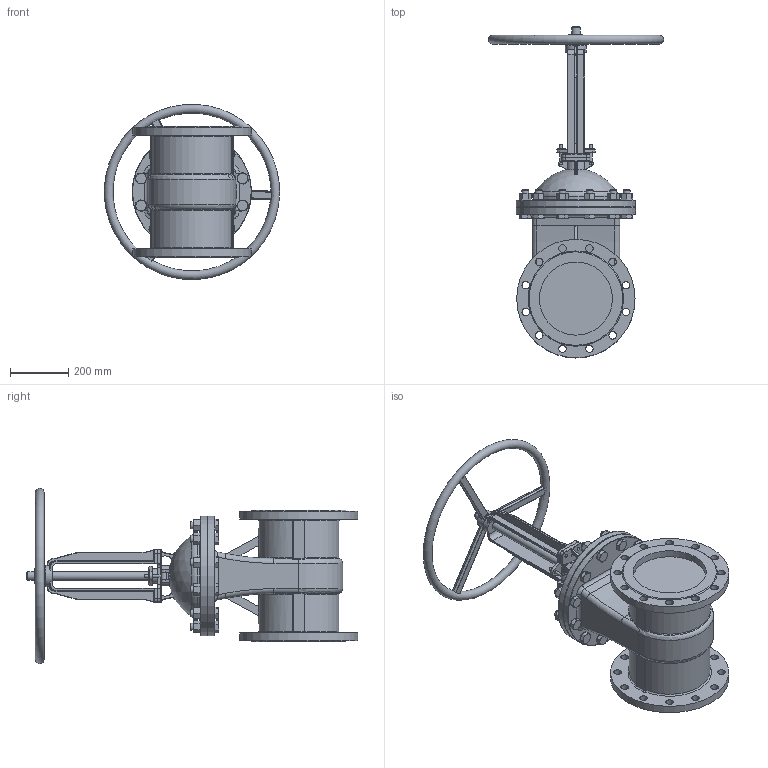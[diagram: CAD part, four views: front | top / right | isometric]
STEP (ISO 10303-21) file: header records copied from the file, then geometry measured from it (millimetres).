
FILE_DESCRIPTION(('STEP AP242'), '1');
FILE_NAME('GVWR2626M-2W-F-S Çàäâèæêà êëèíîâàÿ ñ âûäâèæíûì øòîêîì DN.ru Äó250 Ðó16', '', ('UNSPECIFIED'), ('UNSPECIFIED'), 'C3D Converter', 'C3D Toolkit', '');
FILE_SCHEMA(('AP242_MANAGED_MODEL_BASED_3D_ENGINEERING_MIM_LF { 1 0 10303 442 1 1 4 }'));
Length unit declared in the file: millimetre
Products named in the file (1): GVWR2626M-2W-F-S
Bounding box: 599.18 x 1135.5 x 599.04 mm (x, y, z)
Surface area: 2030970.5 mm2
Topology: 12 solids, 13 shells, 1147 faces, 2776 edges, 1702 vertices
Faces by surface type: plane 478, cylinder 287, cone 189, bspline 102, torus 86, sphere 5
Full cylindrical faces by diameter (mm): 8.4 x4, 9.6 x4, 12 x8, 18 x2, 24 x36, 26 x24, 30 x2, 33.48 x12, 36 x9, 48 x3, 60 x1, 72 x1, 250 x2, 288 x2, 405 x2, 408 x2
Entity records: 65809 total; most frequent: CARTESIAN_POINT 32063, ORIENTED_EDGE 5181, DIRECTION 4630, EDGE_CURVE 2594, AXIS2_PLACEMENT_3D 1837, VERTEX_POINT 1697, EDGE_LOOP 1505, FACE_BOUND 1284
